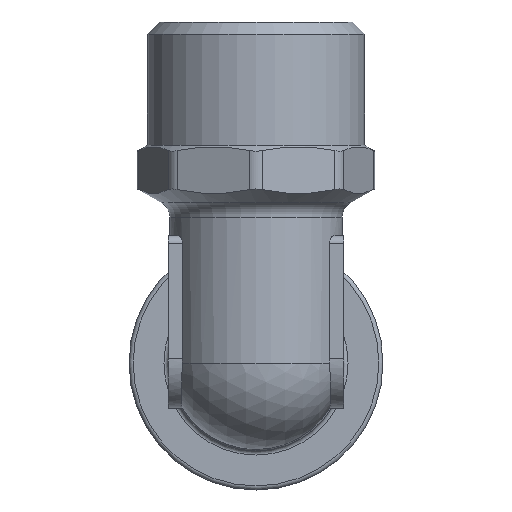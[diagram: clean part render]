
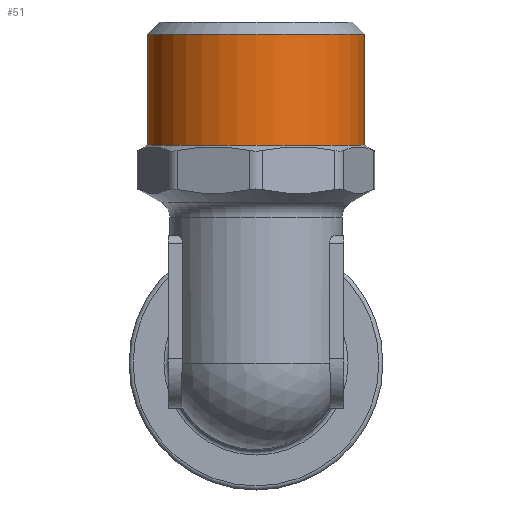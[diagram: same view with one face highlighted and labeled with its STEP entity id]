
A CAD part, front view. The second image highlights one B-rep face of the part: STEP entity #51.
In plain terms, the highlighted cylindrical face has radius 13.22 mm (diameter 26.441 mm), a full revolution.
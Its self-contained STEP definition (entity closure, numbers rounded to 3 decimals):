
#51=ADVANCED_FACE('',(#447,#449),#451,.T.);
#447=FACE_OUTER_BOUND('',#448,.T.);
#448=EDGE_LOOP('',(#2942));
#449=FACE_OUTER_BOUND('',#450,.T.);
#450=EDGE_LOOP('',(#2943));
#451=CYLINDRICAL_SURFACE('',#452,13.221);
#452=AXIS2_PLACEMENT_3D('',#453,#454,#455);
#453=CARTESIAN_POINT('',(0.,0.,26.5));
#454=DIRECTION('',(0.,0.,1.));
#455=DIRECTION('',(0.,1.,0.));
#2942=ORIENTED_EDGE('',*,*,#5092,.F.);
#2943=ORIENTED_EDGE('',*,*,#5095,.T.);
#5092=EDGE_CURVE('',#5967,#5967,#5968,.T.);
#5095=EDGE_CURVE('',#5972,#5972,#5973,.T.);
#5967=VERTEX_POINT('',#7456);
#5968=CIRCLE('',#7457,13.221);
#5972=VERTEX_POINT('',#7470);
#5973=CIRCLE('',#7471,13.221);
#7456=CARTESIAN_POINT('',(0.,13.221,40.));
#7457=AXIS2_PLACEMENT_3D('',#7458,#7459,#7460);
#7458=CARTESIAN_POINT('',(0.,0.,40.));
#7459=DIRECTION('',(0.,0.,1.));
#7460=DIRECTION('',(0.,1.,0.));
#7470=CARTESIAN_POINT('',(0.,13.221,26.5));
#7471=AXIS2_PLACEMENT_3D('',#7472,#7473,#7474);
#7472=CARTESIAN_POINT('',(0.,0.,26.5));
#7473=DIRECTION('',(0.,0.,1.));
#7474=DIRECTION('',(0.,1.,0.));
